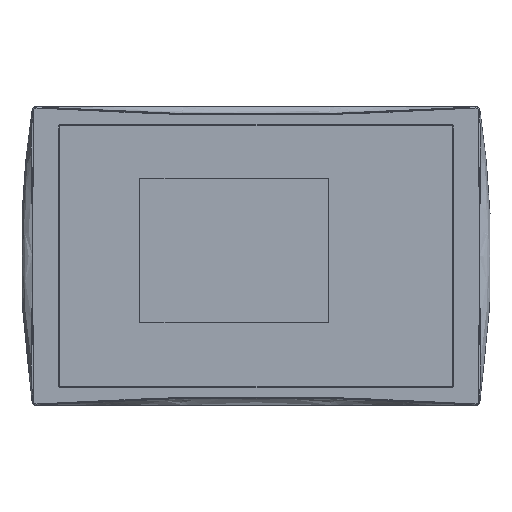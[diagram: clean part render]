
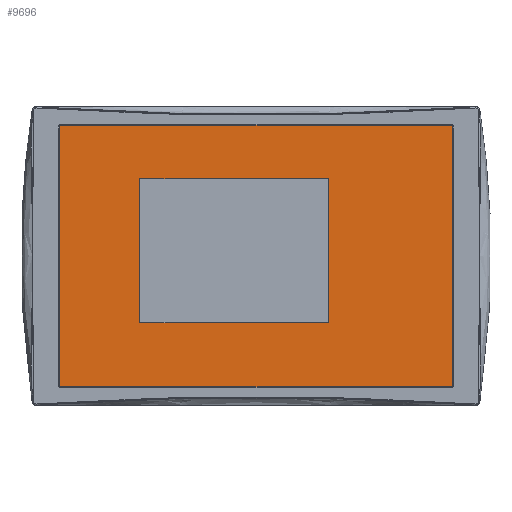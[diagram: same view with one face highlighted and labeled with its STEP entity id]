
A CAD part, top view. The second image highlights one B-rep face of the part: STEP entity #9696.
In plain terms, the highlighted planar face has unit normal (0, 0, 1).
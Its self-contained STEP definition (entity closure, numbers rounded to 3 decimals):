
#641 = ORIENTED_EDGE ( 'NONE', *, *, #63626, .F. ) ;
#642 = ORIENTED_EDGE ( 'NONE', *, *, #63632, .F. ) ;
#643 = ORIENTED_EDGE ( 'NONE', *, *, #63631, .F. ) ;
#644 = ORIENTED_EDGE ( 'NONE', *, *, #63629, .F. ) ;
#645 = ORIENTED_EDGE ( 'NONE', *, *, #63634, .T. ) ;
#646 = ORIENTED_EDGE ( 'NONE', *, *, #63635, .T. ) ;
#647 = ORIENTED_EDGE ( 'NONE', *, *, #63633, .T. ) ;
#648 = ORIENTED_EDGE ( 'NONE', *, *, #63636, .T. ) ;
#649 = ORIENTED_EDGE ( 'NONE', *, *, #63637, .T. ) ;
#650 = ORIENTED_EDGE ( 'NONE', *, *, #63638, .T. ) ;
#651 = ORIENTED_EDGE ( 'NONE', *, *, #63639, .T. ) ;
#652 = ORIENTED_EDGE ( 'NONE', *, *, #63640, .T. ) ;
#2995 = CARTESIAN_POINT ( 'NONE',  ( -403.237, -447.505, 19.816 ) ) ;
#2996 = DIRECTION ( 'NONE',  ( 1., 0., 0. ) ) ;
#3001 = CARTESIAN_POINT ( 'NONE',  ( -305.237, -372.505, 19.816 ) ) ;
#3002 = DIRECTION ( 'NONE',  ( 0., 1., 0. ) ) ;
#3005 = CARTESIAN_POINT ( 'NONE',  ( -403.237, -372.505, 19.816 ) ) ;
#3006 = DIRECTION ( 'NONE',  ( -1., 0., 0. ) ) ;
#3007 = CARTESIAN_POINT ( 'NONE',  ( -403.237, -372.505, 19.816 ) ) ;
#3008 = DIRECTION ( 'NONE',  ( 0., -1., 0. ) ) ;
#3009 = CARTESIAN_POINT ( 'NONE',  ( -445.237, -345.219, 19.816 ) ) ;
#3010 = DIRECTION ( 'NONE',  ( 0., -1., 0. ) ) ;
#3011 = CARTESIAN_POINT ( 'NONE',  ( -444.951, -345.219, 19.816 ) ) ;
#3012 = DIRECTION ( 'NONE',  ( 0., 0., 1. ) ) ;
#3013 = DIRECTION ( 'NONE',  ( 1., 0., 0. ) ) ;
#3014 = CARTESIAN_POINT ( 'NONE',  ( -444.951, -480.219, 19.816 ) ) ;
#3015 = DIRECTION ( 'NONE',  ( 0., 0., 1. ) ) ;
#3016 = DIRECTION ( 'NONE',  ( 1., 0., 0. ) ) ;
#3017 = CARTESIAN_POINT ( 'NONE',  ( -444.951, -480.505, 19.816 ) ) ;
#3018 = DIRECTION ( 'NONE',  ( 1., 0., 0. ) ) ;
#3019 = CARTESIAN_POINT ( 'NONE',  ( -240.951, -480.219, 19.816 ) ) ;
#3020 = DIRECTION ( 'NONE',  ( 0., 0., 1. ) ) ;
#3021 = DIRECTION ( 'NONE',  ( 1., 0., 0. ) ) ;
#3022 = CARTESIAN_POINT ( 'NONE',  ( -240.665, -480.219, 19.816 ) ) ;
#3023 = DIRECTION ( 'NONE',  ( 0., 1., 0. ) ) ;
#3024 = CARTESIAN_POINT ( 'NONE',  ( -240.951, -345.219, 19.816 ) ) ;
#3025 = DIRECTION ( 'NONE',  ( 0., 0., 1. ) ) ;
#3026 = DIRECTION ( 'NONE',  ( 1., 0., 0. ) ) ;
#3027 = CARTESIAN_POINT ( 'NONE',  ( -240.951, -344.933, 19.816 ) ) ;
#3028 = DIRECTION ( 'NONE',  ( -1., 0., 0. ) ) ;
#8262 = CIRCLE ( 'NONE', #8290, 0.286 ) ;
#8265 = CIRCLE ( 'NONE', #8288, 0.286 ) ;
#8277 = VECTOR ( 'NONE', #2996, 1000. ) ;
#8280 = VECTOR ( 'NONE', #3002, 1000. ) ;
#8281 = CIRCLE ( 'NONE', #8292, 0.286 ) ;
#8283 = VECTOR ( 'NONE', #3006, 1000. ) ;
#8284 = VECTOR ( 'NONE', #3008, 1000. ) ;
#8285 = CIRCLE ( 'NONE', #8287, 0.286 ) ;
#8286 = VECTOR ( 'NONE', #3010, 1000. ) ;
#8287 = AXIS2_PLACEMENT_3D ( 'NONE', #3011, #3012, #3013 ) ;
#8288 = AXIS2_PLACEMENT_3D ( 'NONE', #3014, #3015, #3016 ) ;
#8289 = VECTOR ( 'NONE', #3018, 1000. ) ;
#8290 = AXIS2_PLACEMENT_3D ( 'NONE', #3019, #3020, #3021 ) ;
#8291 = VECTOR ( 'NONE', #3023, 1000. ) ;
#8292 = AXIS2_PLACEMENT_3D ( 'NONE', #3024, #3025, #3026 ) ;
#8293 = VECTOR ( 'NONE', #3028, 1000. ) ;
#9696 = ADVANCED_FACE ( 'NONE', ( #77014, #77015 ), #30237, .T. ) ;
#18912 = CARTESIAN_POINT ( 'NONE',  ( -444.951, -344.933, 19.816 ) ) ;
#18913 = CARTESIAN_POINT ( 'NONE',  ( -403.237, -372.505, 19.816 ) ) ;
#18917 = CARTESIAN_POINT ( 'NONE',  ( -240.951, -480.505, 19.816 ) ) ;
#19116 = CARTESIAN_POINT ( 'NONE',  ( -305.237, -372.505, 19.816 ) ) ;
#19713 = CARTESIAN_POINT ( 'NONE',  ( -445.237, -480.219, 19.816 ) ) ;
#19871 = CARTESIAN_POINT ( 'NONE',  ( -240.665, -345.219, 19.816 ) ) ;
#19975 = CARTESIAN_POINT ( 'NONE',  ( -403.237, -447.505, 19.816 ) ) ;
#20032 = CARTESIAN_POINT ( 'NONE',  ( -240.951, -344.933, 19.816 ) ) ;
#20074 = CARTESIAN_POINT ( 'NONE',  ( -444.951, -480.505, 19.816 ) ) ;
#20079 = CARTESIAN_POINT ( 'NONE',  ( -445.237, -345.219, 19.816 ) ) ;
#20123 = CARTESIAN_POINT ( 'NONE',  ( -240.665, -480.219, 19.816 ) ) ;
#20152 = CARTESIAN_POINT ( 'NONE',  ( -305.237, -447.505, 19.816 ) ) ;
#28540 = LINE ( 'NONE', #2995, #8277 ) ;
#28543 = LINE ( 'NONE', #3001, #8280 ) ;
#28545 = LINE ( 'NONE', #3005, #8283 ) ;
#28546 = LINE ( 'NONE', #3007, #8284 ) ;
#28547 = LINE ( 'NONE', #3009, #8286 ) ;
#28548 = LINE ( 'NONE', #3017, #8289 ) ;
#28549 = LINE ( 'NONE', #3022, #8291 ) ;
#28550 = LINE ( 'NONE', #3027, #8293 ) ;
#30237 = PLANE ( 'NONE',  #83303 ) ;
#30238 = CARTESIAN_POINT ( 'NONE',  ( -444.951, -345.219, 19.816 ) ) ;
#30259 = DIRECTION ( 'NONE',  ( 0., 0., 1. ) ) ;
#30575 = DIRECTION ( 'NONE',  ( 1., 0., 0. ) ) ;
#63626 = EDGE_CURVE ( 'NONE', #85315, #85492, #28540, .T. ) ;
#63629 = EDGE_CURVE ( 'NONE', #85492, #83050, #28543, .T. ) ;
#63631 = EDGE_CURVE ( 'NONE', #83050, #82847, #28545, .T. ) ;
#63632 = EDGE_CURVE ( 'NONE', #82847, #85315, #28546, .T. ) ;
#63633 = EDGE_CURVE ( 'NONE', #85419, #85053, #28547, .T. ) ;
#63634 = EDGE_CURVE ( 'NONE', #82846, #85419, #8285, .T. ) ;
#63635 = EDGE_CURVE ( 'NONE', #85053, #85414, #8265, .T. ) ;
#63636 = EDGE_CURVE ( 'NONE', #85414, #82851, #28548, .T. ) ;
#63637 = EDGE_CURVE ( 'NONE', #82851, #85463, #8262, .T. ) ;
#63638 = EDGE_CURVE ( 'NONE', #85463, #85211, #28549, .T. ) ;
#63639 = EDGE_CURVE ( 'NONE', #85211, #85372, #8281, .T. ) ;
#63640 = EDGE_CURVE ( 'NONE', #85372, #82846, #28550, .T. ) ;
#77014 = FACE_BOUND ( 'NONE', #80803, .T. ) ;
#77015 = FACE_OUTER_BOUND ( 'NONE', #80802, .T. ) ;
#80802 = EDGE_LOOP ( 'NONE', ( #645, #647, #646, #648, #649, #650, #651, #652 ) ) ;
#80803 = EDGE_LOOP ( 'NONE', ( #642, #643, #644, #641 ) ) ;
#82846 = VERTEX_POINT ( 'NONE', #18912 ) ;
#82847 = VERTEX_POINT ( 'NONE', #18913 ) ;
#82851 = VERTEX_POINT ( 'NONE', #18917 ) ;
#83050 = VERTEX_POINT ( 'NONE', #19116 ) ;
#83303 = AXIS2_PLACEMENT_3D ( 'NONE', #30238, #30259, #30575 ) ;
#85053 = VERTEX_POINT ( 'NONE', #19713 ) ;
#85211 = VERTEX_POINT ( 'NONE', #19871 ) ;
#85315 = VERTEX_POINT ( 'NONE', #19975 ) ;
#85372 = VERTEX_POINT ( 'NONE', #20032 ) ;
#85414 = VERTEX_POINT ( 'NONE', #20074 ) ;
#85419 = VERTEX_POINT ( 'NONE', #20079 ) ;
#85463 = VERTEX_POINT ( 'NONE', #20123 ) ;
#85492 = VERTEX_POINT ( 'NONE', #20152 ) ;
